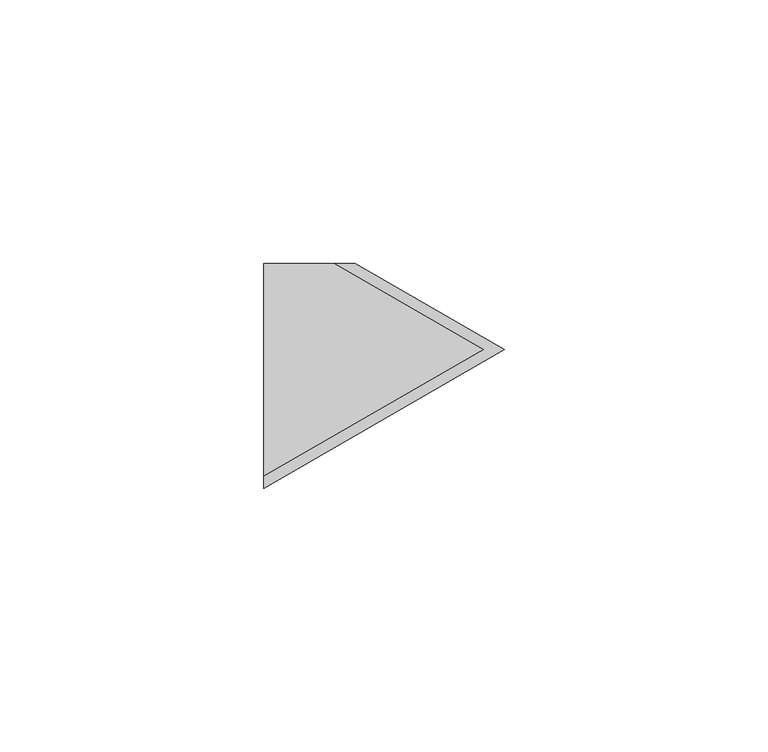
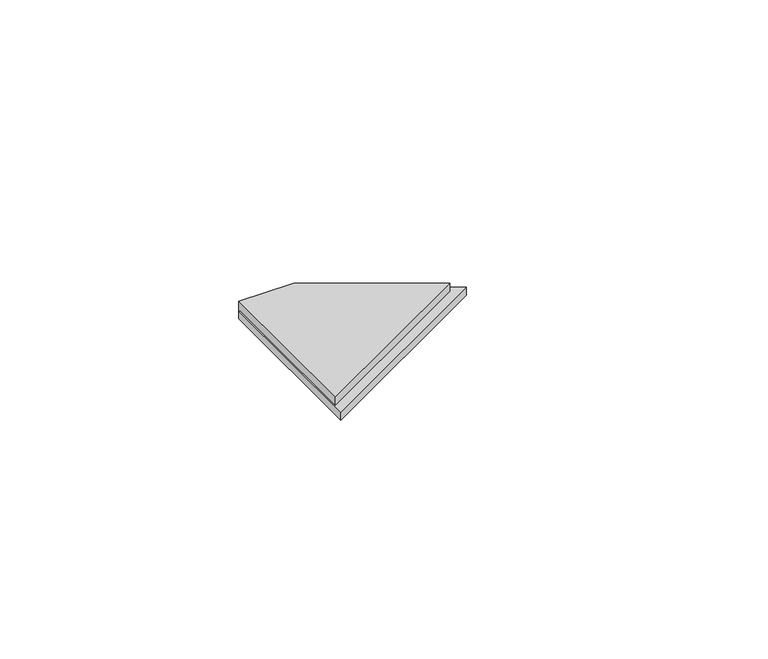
"""IFC4 building model written with IfcOpenShell, lengths in millimetres: proxy geometry, PBSHOP - CUBICA ARGENTO 4,8X8,3 : CUBICA ARGENTO - POSIÇÃO 03."""

from ifc_helpers import new_model, si_unit, origin, place, context, project, spatial, faceted_brep, source, transform, mapped, element, save


def generic_models_eac52c18(model_context):
    return source(origin(), model_context, "Body", "Brep", [
        faceted_brep([(0.0, -26.3094011, 2.0), (45.5692194, 0.0, 2.0), (17.3205081, 16.3094011, 2.0), (0.0307806, 16.3094011, 2.0), (45.5692194, 0.0, 0.0), (0.0, -26.3094011, 0.0), (0.0307806, 16.3094011, 0.0), (17.3205081, 16.3094011, 0.0)], [[[0, 1, 2, 3]], [[4, 5, 6, 7]], [[1, 0, 5, 4]], [[1, 4, 7, 2]], [[6, 3, 2, 7]], [[3, 6, 5, 0]]]),
        faceted_brep([(0.0, -24.0, 4.5), (41.5692194, 0.0, 4.5), (13.3205081, 16.3094011, 4.5), (0.0307806, 16.3094011, 4.5), (41.5692194, 0.0, 2.0), (0.0, -24.0, 2.0), (0.0307806, 16.3094011, 2.0), (13.3205081, 16.3094011, 2.0)], [[[0, 1, 2, 3]], [[4, 5, 6, 7]], [[1, 0, 5, 4]], [[1, 4, 7, 2]], [[6, 3, 2, 7]], [[3, 6, 5, 0]]]),
    ])


if __name__ == "__main__":
    model = new_model("IFC4")
    model_context = context("Model", 3, world=origin())
    ifc_project = project(units=[si_unit("LENGTHUNIT", "METRE", prefix="MILLI")], contexts=[model_context])
    site = spatial("IfcSite", under=ifc_project)
    building = spatial("IfcBuilding", under=site)
    placement = place(None, origin())
    generic_models_shape = generic_models_eac52c18(model_context)
    element("IfcBuildingElementProxy", 1, Name="PBSHOP - CUBICA ARGENTO 4,8X8,3 : CUBICA ARGENTO - POSIÇÃO 03", ObjectType="PBSHOP - CUBICA ARGENTO 4,8X8,3 : CUBICA ARGENTO - POSIÇÃO 03", at=placement, inside=building, context=model_context, shape_type="MappedRepresentation", body=[
        mapped(generic_models_shape, transform((0.0, 0.0, 0.0), x_axis=(1.0, 0.0, 0.0), y_axis=(0.0, 1.0, 0.0), z_axis=(0.0, 0.0, 1.0))),
    ])
    save(model, "model.ifc")
